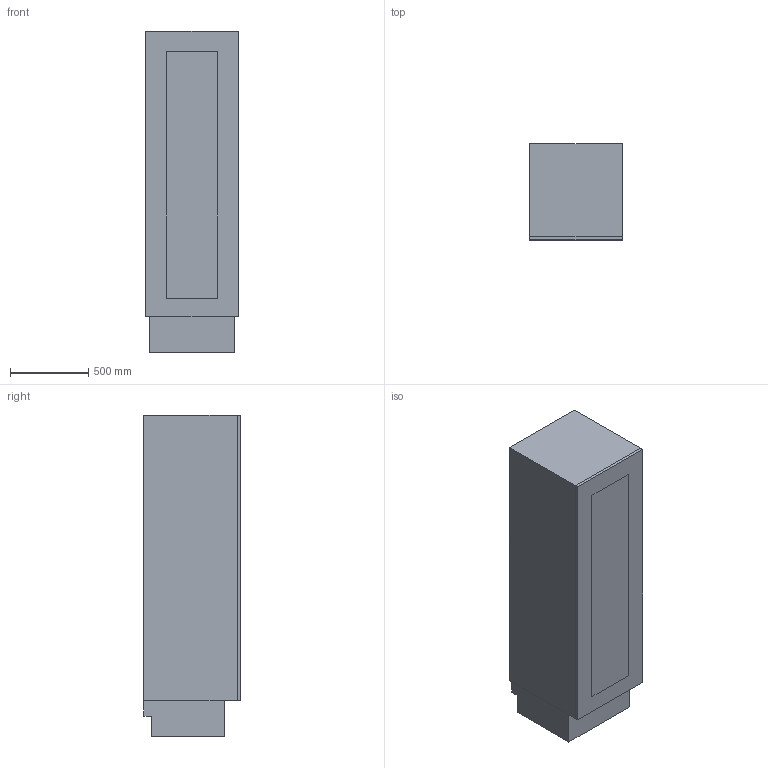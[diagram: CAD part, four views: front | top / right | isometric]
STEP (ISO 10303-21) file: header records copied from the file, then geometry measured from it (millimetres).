
FILE_DESCRIPTION(/* description */ (''),/* implementation_level */ '2;1');
FILE_NAME(/* name */ 'WC6205TVIR',/* time_stamp */ '2026-01-05T17:23:45+01:00',/* author */ (''),/* organization */ (''),/* preprocessor_version */ 'ST-DEVELOPER v16.5',/* originating_system */ 'Rhino 7.38',/* authorisation */ '');
FILE_SCHEMA (('AUTOMOTIVE_DESIGN'));
Length unit declared in the file: millimetre
Products named in the file (1): Document
Bounding box: 587 x 615 x 2050 mm (x, y, z)
Volume: 370214143.6 mm3; surface area: 15608461.4 mm2
Topology: 160 solids, 160 shells, 1259 faces, 2834 edges, 1876 vertices
Faces by surface type: plane 1259
Entity records: 29961 total; most frequent: CARTESIAN_POINT 8786, ORIENTED_EDGE 5628, EDGE_CURVE 2814, B_SPLINE_CURVE_WITH_KNOTS 2814, VERTEX_POINT 1876, DIRECTION 1285, EDGE_LOOP 1262, AXIS2_PLACEMENT_3D 1262
